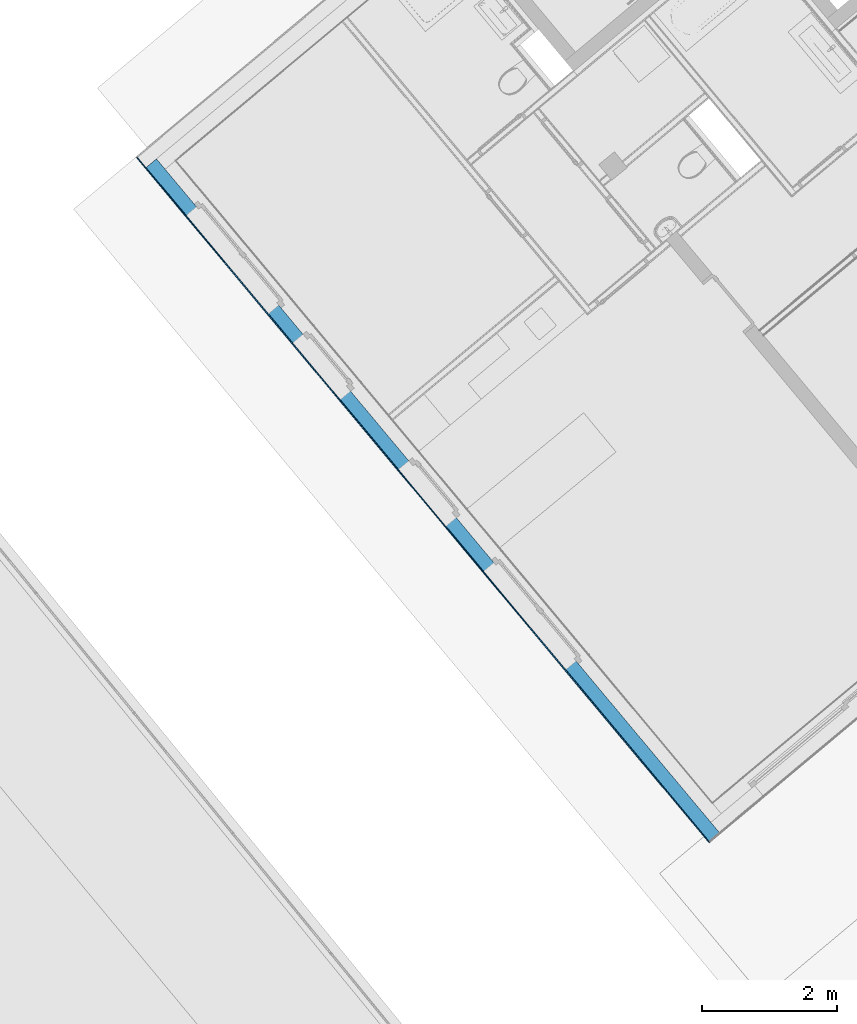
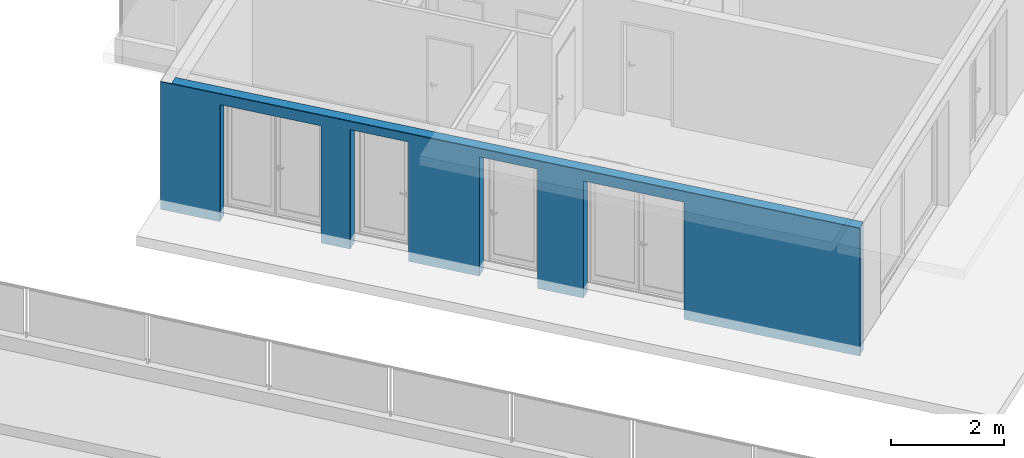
# One storey, part 21 of 75: 2 building element parts, 4 openings, 1 element without a shape of its own.
"""IFC4 building model written with IfcOpenShell, lengths in metres."""

from ifc_helpers import new_model, entity, si_unit, converted_unit, derived_unit, direction, frame, origin_with_axes, place, context, subcontext, project, spatial, polygons, material, type_object, element, aggregate, save


model = new_model("IFC4")

# Units and contexts
model_context = context("Model", 3, precision=1e-05, world=origin_with_axes(), true_north=direction((0.0, 1.0)))
body_context = subcontext(model_context, "Body", "Model", "MODEL_VIEW")
ifc_project = project(units=[si_unit("LENGTHUNIT", "METRE"), si_unit("AREAUNIT", "SQUARE_METRE"), si_unit("VOLUMEUNIT", "CUBIC_METRE"), converted_unit("PLANEANGLEUNIT", "DEGREE", entity("IfcPlaneAngleMeasure", 0.0174532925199), si_unit("PLANEANGLEUNIT", "RADIAN"), dimensions=[0, 0, 0, 0, 0, 0, 0]), converted_unit("TIMEUNIT", "Year", entity("IfcTimeMeasure", 31556926.0), si_unit("TIMEUNIT", "SECOND"), dimensions=[0, 0, 1, 0, 0, 0, 0]), si_unit("MASSUNIT", "GRAM", prefix="KILO"), si_unit("THERMODYNAMICTEMPERATUREUNIT", "DEGREE_CELSIUS"), si_unit("LUMINOUSINTENSITYUNIT", "LUMEN"), si_unit("ENERGYUNIT", "JOULE", prefix="MEGA"), derived_unit("THERMALCONDUCTANCEUNIT", [(si_unit("POWERUNIT", "WATT"), 1), (si_unit("LENGTHUNIT", "METRE"), -1), (si_unit("THERMODYNAMICTEMPERATUREUNIT", "KELVIN"), -1)]), derived_unit("SPECIFICHEATCAPACITYUNIT", [(si_unit("ENERGYUNIT", "JOULE"), 1), (si_unit("MASSUNIT", "GRAM", prefix="KILO"), -1), (si_unit("THERMODYNAMICTEMPERATUREUNIT", "KELVIN"), -1)]), derived_unit("MASSDENSITYUNIT", [(si_unit("MASSUNIT", "GRAM", prefix="KILO"), 1), (si_unit("VOLUMEUNIT", "CUBIC_METRE"), -1)])], contexts=[model_context])

# Site, building, storey
site_placement = place(None, frame((-0.00153261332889, -0.00661245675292, 0.0), z_axis=(0.0, 0.0, 1.0), x_axis=(1.0, 0.0, 0.0)))
site = spatial("IfcSite", under=ifc_project, at=site_placement, Name="Gelände", CompositionType="ELEMENT")
building_placement = place(site_placement, origin_with_axes())
building = spatial("IfcBuilding", under=site, at=building_placement, Name="Gebäude", CompositionType="ELEMENT")
storey_placement = place(building_placement, frame((0.0, 0.0, -0.22), z_axis=(0.0, 0.0, 1.0), x_axis=(1.0, 0.0, 0.0)))
storey = spatial("IfcBuildingStorey", under=building, at=storey_placement, Name="EG", CompositionType="ELEMENT", Elevation=-0.22)

# Wall, openings, building element parts
wall_type = type_object("IfcWallType", Name="AW EG 420", PredefinedType="NOTDEFINED")
wall_placement = place(storey_placement, frame((-8.68307438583, 19.0183290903, 0.0), z_axis=(0.0, 0.0, 1.0), x_axis=(0.641209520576, -0.767365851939, 0.0)))
wall = element("IfcWall", 1, at=wall_placement, inside=storey, type_object=wall_type, Name="Wand-002", PredefinedType="NOTDEFINED")
opening_1_placement = place(wall_placement, frame((8.93569204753, 0.0, 0.22), z_axis=(0.0, 0.0, 1.0), x_axis=(1.0, 0.0, 0.0)))
element("IfcOpeningElement", 2, at=opening_1_placement, cuts=wall, Name="Tür-002", context=body_context, identifier="Reference", shape_type="Tessellation", body=[
    polygons([(0.95, 0.215, -0.22), (0.95, 0.215, 2.31), (0.95, -6.49731305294, 2.31), (0.95, -6.49731305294, -0.22), (-0.95, 0.215, 2.31), (1.0, 0.215, -0.22), (1.0, 0.215, 2.36), (-1.0, 0.215, 2.36), (-1.0, 0.215, -0.22), (-0.95, 0.215, -0.22), (-0.95, -6.49731305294, 2.31), (-0.95, -6.49731305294, -0.22), (-1.0, 6.91731305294, -0.22), (1.0, 6.91731305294, -0.22), (1.0, 6.91731305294, 2.36), (-1.0, 6.91731305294, 2.36)], [[[1, 2, 3, 4]], [[5, 2, 1, 6, 7, 8, 9, 10]], [[2, 5, 11, 3]], [[11, 12, 4, 3]], [[1, 4, 12, 10, 9, 13, 14, 6]], [[7, 6, 14, 15]], [[8, 7, 15, 16]], [[9, 8, 16, 13]], [[5, 10, 12, 11]], [[15, 14, 13, 16]]], closed=True),
])
opening_2_placement = place(wall_placement, frame((2.08549096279, 0.0, 0.22), z_axis=(0.0, 0.0, 1.0), x_axis=(1.0, 0.0, 0.0)))
element("IfcOpeningElement", 3, at=opening_2_placement, cuts=wall, Name="Tür-002", context=body_context, identifier="Reference", shape_type="Tessellation", body=[
    polygons([(0.95, 0.215, -0.22), (0.95, 0.215, 2.31), (0.95, -6.49731305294, 2.31), (0.95, -6.49731305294, -0.22), (-0.95, 0.215, 2.31), (1.0, 0.215, -0.22), (1.0, 0.215, 2.36), (-1.0, 0.215, 2.36), (-1.0, 0.215, -0.22), (-0.95, 0.215, -0.22), (-0.95, -6.49731305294, 2.31), (-0.95, -6.49731305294, -0.22), (-1.0, 6.91731305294, -0.22), (1.0, 6.91731305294, -0.22), (1.0, 6.91731305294, 2.36), (-1.0, 6.91731305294, 2.36)], [[[1, 2, 3, 4]], [[5, 2, 1, 6, 7, 8, 9, 10]], [[2, 5, 11, 3]], [[11, 12, 4, 3]], [[1, 4, 12, 10, 9, 13, 14, 6]], [[7, 6, 14, 15]], [[8, 7, 15, 16]], [[9, 8, 16, 13]], [[5, 10, 12, 11]], [[15, 14, 13, 16]]], closed=True),
])
opening_3_placement = place(wall_placement, frame((6.57566381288, 0.0, 0.22), z_axis=(0.0, 0.0, 1.0), x_axis=(1.0, 0.0, 0.0)))
element("IfcOpeningElement", 4, at=opening_3_placement, cuts=wall, Name="Tür-001", context=body_context, identifier="Reference", shape_type="Tessellation", body=[
    polygons([(0.55, 0.215, -0.22), (0.55, 0.215, 2.36), (0.55, -6.49731305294, 2.36), (0.55, -6.49731305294, -0.22), (0.55, 6.91731305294, -0.22), (0.55, 6.91731305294, 2.36), (-0.55, 0.215, 2.36), (-0.55, -6.49731305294, 2.36), (-0.55, 6.91731305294, 2.36), (-0.55, -6.49731305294, -0.22), (-0.55, 0.215, -0.22), (-0.55, 6.91731305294, -0.22)], [[[1, 2, 3, 4]], [[2, 1, 5, 6]], [[7, 8, 3, 2, 6, 9]], [[8, 10, 4, 3]], [[1, 4, 10, 11, 12, 5]], [[6, 5, 12, 9]], [[7, 11, 10, 8]], [[11, 7, 9, 12]]], closed=True),
])
opening_4_placement = place(wall_placement, frame((4.13955898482, 0.0, 0.22), z_axis=(0.0, 0.0, 1.0), x_axis=(1.0, 0.0, 0.0)))
element("IfcOpeningElement", 5, at=opening_4_placement, cuts=wall, Name="Tür-001", context=body_context, identifier="Reference", shape_type="Tessellation", body=[
    polygons([(0.55, 0.215, -0.22), (0.55, 0.215, 2.36), (0.55, -6.49731305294, 2.36), (0.55, -6.49731305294, -0.22), (0.55, 6.91731305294, -0.22), (0.55, 6.91731305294, 2.36), (-0.55, 0.215, 2.36), (-0.55, -6.49731305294, 2.36), (-0.55, 6.91731305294, 2.36), (-0.55, -6.49731305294, -0.22), (-0.55, 0.215, -0.22), (-0.55, 6.91731305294, -0.22)], [[[1, 2, 3, 4]], [[2, 1, 5, 6]], [[7, 8, 3, 2, 6, 9]], [[8, 10, 4, 3]], [[1, 4, 10, 11, 12, 5]], [[6, 5, 12, 9]], [[7, 11, 10, 8]], [[11, 7, 9, 12]]], closed=True),
])
ifc_material_1 = material(Name="EPS 1")
building_element_part_1_placement = place(wall_placement, origin_with_axes())
building_element_part_1 = element("IfcBuildingElementPart", 6, at=building_element_part_1_placement, material=ifc_material_1, Name="EPS 1", PredefinedType="NOTDEFINED", context=body_context, shape_type="Tessellation", body=[
    polygons([(3.58955898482, 0.215, 2.58), (3.58955898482, 0.215, 0.0), (3.03549096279, 0.215, 0.0), (3.03549096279, 0.215, 2.53), (1.13549096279, 0.215, 2.53), (1.13549096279, 0.215, 0.0), (0.215, 0.215, 0.0), (0.215, 0.215, 2.76), (13.1876134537, 0.215, 2.76), (13.1876134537, 0.215, 0.0), (9.88569204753, 0.215, 0.0), (9.88569204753, 0.215, 2.53), (7.98569204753, 0.215, 2.53), (7.98569204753, 0.215, 0.0), (7.12566381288, 0.215, 0.0), (7.12566381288, 0.215, 2.58), (6.02566381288, 0.215, 2.58), (6.02566381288, 0.215, 0.0), (4.68955898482, 0.215, 0.0), (4.68955898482, 0.215, 2.58), (3.58955898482, 0.015, 2.58), (3.58955898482, 0.015, 0.0), (3.03549096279, 0.015, 0.0), (3.03549096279, 0.015, 2.53), (1.13549096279, 0.015, 2.53), (1.13549096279, 0.015, 0.0), (0.215, 0.015, 0.0), (0.215, 0.015, 2.76), (13.1877437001, 0.015, 2.76), (13.1877437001, 0.015, 0.0), (9.88569204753, 0.015, 0.0), (9.88569204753, 0.015, 2.53), (7.98569204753, 0.015, 2.53), (7.98569204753, 0.015, 0.0), (7.12566381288, 0.015, 0.0), (7.12566381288, 0.015, 2.58), (6.02566381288, 0.015, 2.58), (6.02566381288, 0.015, 0.0), (4.68955898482, 0.015, 0.0), (4.68955898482, 0.015, 2.58)], [[[1, 2, 3, 4, 5, 6, 7, 8, 9, 10, 11, 12, 13, 14, 15, 16, 17, 18, 19, 20]], [[2, 1, 21, 22]], [[2, 22, 23, 3]], [[23, 24, 4, 3]], [[24, 25, 5, 4]], [[25, 26, 6, 5]], [[27, 7, 6, 26]], [[7, 27, 28, 8]], [[9, 8, 28, 29]], [[10, 9, 29, 30]], [[30, 31, 11, 10]], [[32, 12, 11, 31]], [[33, 13, 12, 32]], [[34, 14, 13, 33]], [[15, 14, 34, 35]], [[15, 35, 36, 16]], [[16, 36, 37, 17]], [[17, 37, 38, 18]], [[39, 19, 18, 38]], [[20, 19, 39, 40]], [[1, 20, 40, 21]], [[40, 39, 38, 37, 36, 35, 34, 33, 32, 31, 30, 29, 28, 27, 26, 25, 24, 23, 22, 21]]], closed=True),
])
ifc_material_2 = material(Name="Zementputz")
building_element_part_2_placement = place(wall_placement, origin_with_axes())
building_element_part_2 = element("IfcBuildingElementPart", 7, at=building_element_part_2_placement, material=ifc_material_2, Name="Zementputz", PredefinedType="NOTDEFINED", context=body_context, shape_type="Tessellation", body=[
    polygons([(3.58955898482, 0.015, 2.58), (3.58955898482, 0.015, 0.0), (3.03549096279, 0.015, 0.0), (3.03549096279, 0.015, 2.53), (1.13549096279, 0.015, 2.53), (1.13549096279, 0.015, 0.0), (0.015, 0.015, 0.0), (0.015, 0.015, 2.76), (13.2027437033, 0.015, 2.76), (13.2027437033, 0.015, 0.0), (9.88569204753, 0.015, 0.0), (9.88569204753, 0.015, 2.53), (7.98569204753, 0.015, 2.53), (7.98569204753, 0.015, 0.0), (7.12566381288, 0.015, 0.0), (7.12566381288, 0.015, 2.58), (6.02566381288, 0.015, 2.58), (6.02566381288, 0.015, 0.0), (4.68955898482, 0.015, 0.0), (4.68955898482, 0.015, 2.58), (3.58955898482, 0.0, 2.58), (3.58955898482, 0.0, 0.0), (3.03549096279, 0.0, 0.0), (3.03549096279, 0.0, 2.53), (1.13549096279, 0.0, 2.53), (1.13549096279, 0.0, 0.0), (0.015, 0.0, 0.0), (0.015, 0.0, 2.76), (13.2027534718, 0.0, 2.76), (13.2027534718, 0.0, 0.0), (9.88569204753, 0.0, 0.0), (9.88569204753, 0.0, 2.53), (7.98569204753, 0.0, 2.53), (7.98569204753, 0.0, 0.0), (7.12566381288, 0.0, 0.0), (7.12566381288, 0.0, 2.58), (6.02566381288, 0.0, 2.58), (6.02566381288, 0.0, 0.0), (4.68955898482, 0.0, 0.0), (4.68955898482, 0.0, 2.58)], [[[1, 2, 3, 4, 5, 6, 7, 8, 9, 10, 11, 12, 13, 14, 15, 16, 17, 18, 19, 20]], [[2, 1, 21, 22]], [[2, 22, 23, 3]], [[23, 24, 4, 3]], [[24, 25, 5, 4]], [[25, 26, 6, 5]], [[27, 7, 6, 26]], [[7, 27, 28, 8]], [[9, 8, 28, 29]], [[10, 9, 29, 30]], [[30, 31, 11, 10]], [[32, 12, 11, 31]], [[33, 13, 12, 32]], [[34, 14, 13, 33]], [[15, 14, 34, 35]], [[15, 35, 36, 16]], [[16, 36, 37, 17]], [[17, 37, 38, 18]], [[39, 19, 18, 38]], [[20, 19, 39, 40]], [[1, 20, 40, 21]], [[40, 39, 38, 37, 36, 35, 34, 33, 32, 31, 30, 29, 28, 27, 26, 25, 24, 23, 22, 21]]], closed=True),
])
aggregate(wall, [building_element_part_1, building_element_part_2])

save(model, "model.ifc")
